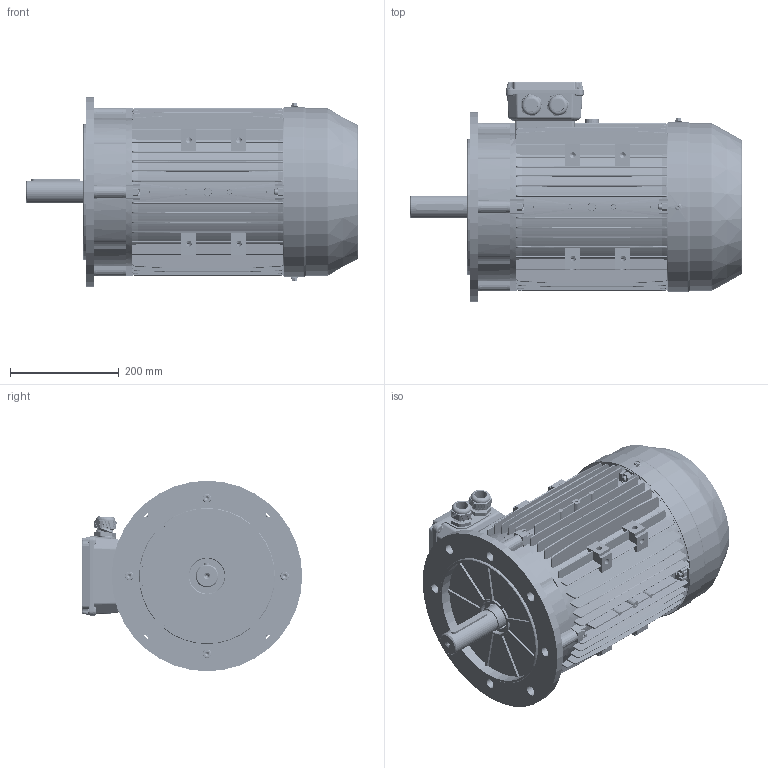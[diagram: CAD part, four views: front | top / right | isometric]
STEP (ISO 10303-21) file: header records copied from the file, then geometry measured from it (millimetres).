
FILE_DESCRIPTION (( 'STEP AP203' ), '1' );
FILE_NAME ('MS160 assembly B5 new TB.STEP', '2017-11-26T10:28:13', ( 'user' ), ( 'china' ), 'SwSTEP 2.0', 'SolidWorks 2016', '' );
FILE_SCHEMA (( 'CONFIG_CONTROL_DESIGN' ));
Length unit declared in the file: millimetre
Products named in the file (17): M160傷裔B3_Post; M160-Shaft ; M160諉盄碟裔(陔)_MS160; M160堤盄碟(陔); GB-T 41-2000 M10; GB-T 5780-2000 M10_045; MS160 綴裔瑞欶郪磁_MS; GB-T 70.1-2000 M10_040; M160儂褲; M32 cable gland; M160堤盄碟釱(陔)_MS160; GB-T 29.2-1988 M6鞠褒坋趼湍菜_12; MS160 assembly B5 new TB; GB-T 29.2-1988 M6鞠褒坋趼湍菜_08; M160傷裔B5; M160瑞欶_136; GB-T 29.2-1988 M5_10
Assembly tree (37 placements, depth 3):
  MS160 assembly B5 new TB
    M160儂褲
    M160-Shaft 
    M160堤盄碟(陔)
      M160堤盄碟釱(陔)_MS160
      M160諉盄碟裔(陔)_MS160
      GB-T 29.2-1988 M5_10  x4
      M32 cable gland  x2
    MS160 綴裔瑞欶郪磁_MS
      M160傷裔B3_Post
      M160瑞欶_136
      GB-T 29.2-1988 M6鞠褒坋趼湍菜_08  x3
      GB-T 29.2-1988 M6鞠褒坋趼湍菜_12  x3
    M160傷裔B5
    GB-T 41-2000 M10  x8
    GB-T 70.1-2000 M10_040  x4
    GB-T 5780-2000 M10_045  x4
Bounding box: 609.99 x 405 x 350 mm (x, y, z)
Volume: 5917798.1 mm3; surface area: 2312544.8 mm2
Topology: 37 solids, 37 shells, 7341 faces, 19620 edges, 12351 vertices
Faces by surface type: plane 3011, cylinder 2742, cone 678, bspline 673, torus 171, sphere 66
Entity records: 236704 total; most frequent: CARTESIAN_POINT 82813, ORIENTED_EDGE 33026, DIRECTION 30386, EDGE_CURVE 16513, AXIS2_PLACEMENT_3D 10788, VERTEX_POINT 10580, VECTOR 8810, LINE 8810
